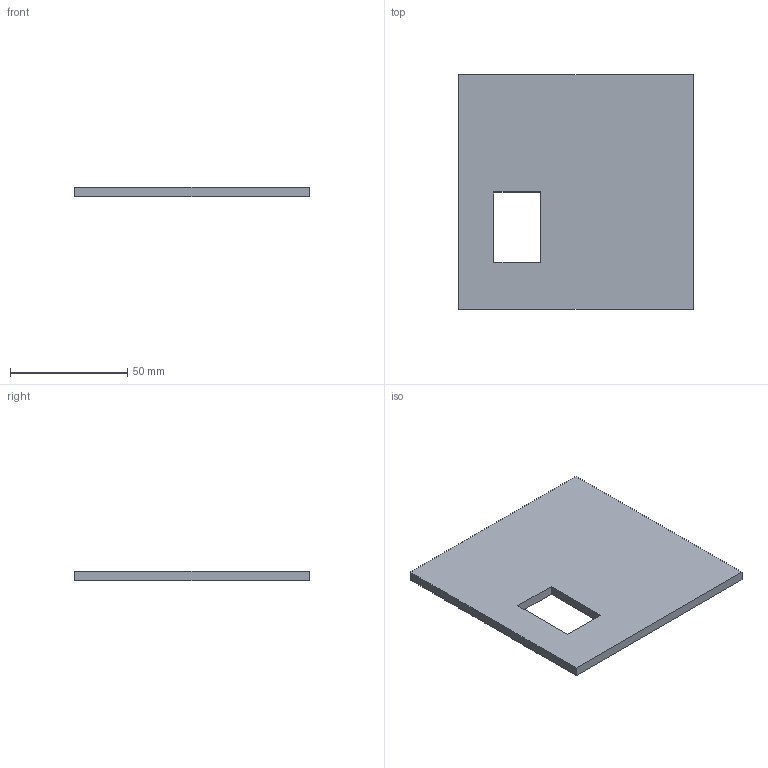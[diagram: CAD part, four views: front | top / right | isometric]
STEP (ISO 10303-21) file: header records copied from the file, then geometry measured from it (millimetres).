
FILE_DESCRIPTION(/* description */ ('STEP AP242 Edition 2','CAx-IF Rec.Pracs.---Representation and Presentation of Product Manufacturing Information (PMI)---4.0---2014-10-13','CAx-IF Rec.Pracs.---3D Tessellated Geometry---0.4---2014-09-14','2;1','CAx-IF Rec.Pracs.---User Defined Attributes---1.5---2016-08-15'),/* implementation_level */ '2;1');
FILE_NAME(/* name */ 'Arm Parts - PlateTest',/* time_stamp */ '2026-04-22T00:04:14Z',/* author */ (''),/* organization */ (''),/* preprocessor_version */ 'ST-DEVELOPER v20',/* originating_system */ 'ONSHAPE BY PTC INC, 1.213',/* authorisation */ ' ');
FILE_SCHEMA (('AP242_MANAGED_MODEL_BASED_3D_ENGINEERING_MIM_LF { 1 0 10303 442 3 1 4 }'));
Length unit declared in the file: metre
Products named in the file (1): PlateTest
Bounding box: 100 x 100 x 4 mm (x, y, z)
Volume: 37600 mm3; surface area: 20800 mm2
Topology: 1 solids, 1 shells, 10 faces, 24 edges, 16 vertices
Faces by surface type: plane 10
Entity records: 314 total; most frequent: CARTESIAN_POINT 51, ORIENTED_EDGE 48, DIRECTION 46, EDGE_CURVE 24, LINE 24, VECTOR 24, VERTEX_POINT 16, EDGE_LOOP 12
